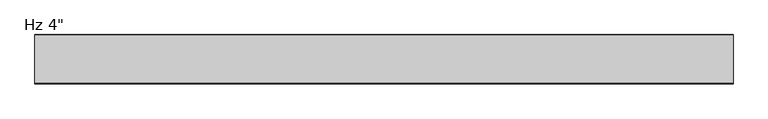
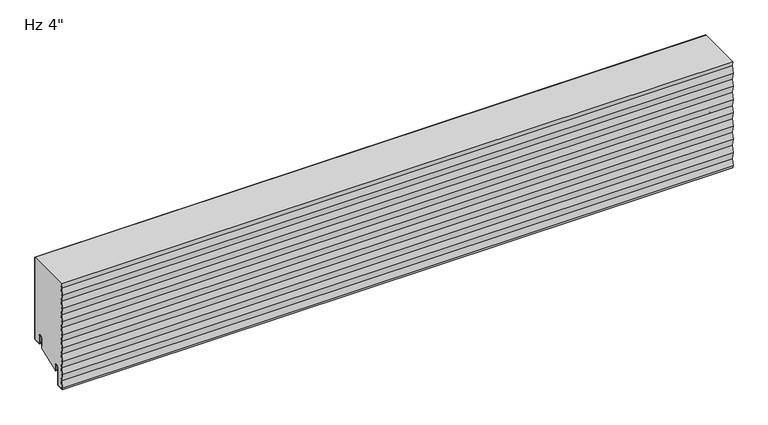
"""IFC4 building model written with IfcOpenShell, lengths in millimetres: plate geometry."""

from ifc_helpers import new_model, si_unit, point, frame, frame_2d, origin, place, context, project, spatial, polyline, circle_curve, trimmed, segment, composite_curve, outline, extrude, source, transform, mapped, element, save


def plate_0a50ad54(model_context):
    return source(origin(), model_context, "Body", "SweptSolid", [
        extrude(outline(composite_curve([segment(trimmed(circle_curve(frame_2d((-21.43125, 19.05)), 4.96875), [point((-16.4625, 19.05))], [point((-26.4, 19.05))], True, "CARTESIAN"), True, "CONTINUOUS"), segment(polyline([(-26.4, 19.05), (-26.4, -3.1323422), (-74.6157227, -23.01875), (-76.2, -23.01875), (-76.2, -13.5080174), (-76.99375, -13.5080174), (-76.7875, -11.9205174)]), True, "CONTINUOUS"), segment(trimmed(circle_curve(frame_2d((-81.75625, -11.9205174)), 4.96875), [point((-76.7875, -11.9205174))], [point((-86.725, -11.9205174))], True, "CARTESIAN"), True, "CONTINUOUS"), segment(polyline([(-86.725, -11.9205174), (-86.725, -50.1038221)]), True, "CONTINUOUS"), segment(trimmed(circle_curve(frame_2d((-88.10625, -50.1038221)), 1.38125), [point((-86.725, -50.1038221))], [point((-88.033961, -51.4831791))], False, "CARTESIAN"), True, "CONTINUOUS"), segment(polyline([(-88.033961, -51.4831791), (-101.2062471, -52.1735094), (-101.7378194, -48.8511825), (-99.2994194, -33.6111825), (-101.7378194, -18.3711825), (-99.2994194, -3.1311825), (-101.7378194, 12.1088175), (-99.2994194, 27.3488175), (-101.7378194, 42.5888175), (-99.2994194, 57.8288175), (-101.7378194, 73.0688175), (-99.2994194, 88.3088175), (-101.7378194, 103.5488175), (-99.2994194, 118.7888175), (-101.7378194, 134.0288175), (-99.2994194, 149.2688175), (-101.7378194, 164.5088175), (-99.2994194, 179.7488175), (-100.9716086, 190.2), (-1.0, 190.2), (-1.0, 3.175)]), True, "CONTINUOUS"), segment(trimmed(circle_curve(frame_2d((-2.38125, 3.175)), 1.38125), [point((-1.0, 3.175))], [point((-2.38125, 1.79375))], False, "CARTESIAN"), True, "CONTINUOUS"), segment(polyline([(-2.38125, 1.79375), (-15.08125, 1.79375)]), True, "CONTINUOUS"), segment(trimmed(circle_curve(frame_2d((-15.08125, 3.175)), 1.38125), [point((-15.08125, 1.79375))], [point((-16.4625, 3.175))], False, "CARTESIAN"), True, "CONTINUOUS"), segment(polyline([(-16.4625, 3.175), (-16.4625, 19.05)]), True, "CONTINUOUS")], self_intersect=False)), frame((-730.0, 0.0, 0.0), z_axis=(1.0, 0.0, 0.0), x_axis=(0.0, 1.0, 0.0)), (0.0, 0.0, 1.0), 1460.0),
        extrude(outline(composite_curve([segment(polyline([(-25.4, 0.79375), (-26.4, 0.79375), (-26.4, 19.05)]), True, "CONTINUOUS"), segment(trimmed(circle_curve(frame_2d((-21.43125, 19.05)), 4.96875), [point((-26.4, 19.05))], [point((-16.4625, 19.05))], False, "CARTESIAN"), True, "CONTINUOUS"), segment(polyline([(-16.4625, 19.05), (-16.4625, 3.175)]), True, "CONTINUOUS"), segment(trimmed(circle_curve(frame_2d((-15.08125, 3.175)), 1.38125), [point((-16.4625, 3.175))], [point((-15.08125, 1.79375))], True, "CARTESIAN"), True, "CONTINUOUS"), segment(polyline([(-15.08125, 1.79375), (-2.38125, 1.79375)]), True, "CONTINUOUS"), segment(trimmed(circle_curve(frame_2d((-2.38125, 3.175)), 1.38125), [point((-2.38125, 1.79375))], [point((-1.0, 3.175))], True, "CARTESIAN"), True, "CONTINUOUS"), segment(polyline([(-1.0, 3.175), (-1.0, 190.2), (0.0, 190.2), (0.0, 3.175)]), True, "CONTINUOUS"), segment(trimmed(circle_curve(frame_2d((-2.38125, 3.175)), 2.38125), [point((0.0, 3.175))], [point((-2.38125, 0.79375))], False, "CARTESIAN"), True, "CONTINUOUS"), segment(polyline([(-2.38125, 0.79375), (-15.08125, 0.79375)]), True, "CONTINUOUS"), segment(trimmed(circle_curve(frame_2d((-15.08125, 3.175)), 2.38125), [point((-15.08125, 0.79375))], [point((-17.4625, 3.175))], False, "CARTESIAN"), True, "CONTINUOUS"), segment(polyline([(-17.4625, 3.175), (-17.4625, 19.05)]), True, "CONTINUOUS"), segment(trimmed(circle_curve(frame_2d((-21.43125, 19.05)), 3.96875), [point((-17.4625, 19.05))], [point((-25.4, 19.05))], True, "CARTESIAN"), True, "CONTINUOUS"), segment(polyline([(-25.4, 19.05), (-25.4, 0.79375)]), True, "CONTINUOUS")], self_intersect=False)), frame((-730.0, 0.0, 0.0), z_axis=(1.0, 0.0, 0.0), x_axis=(0.0, 1.0, 0.0)), (0.0, 0.0, 1.0), 1460.0),
        extrude(outline(composite_curve([segment(trimmed(circle_curve(frame_2d((-76.99375, -23.2314549)), 0.79375), [point((-76.2, -23.2314549))], [point((-77.7875, -23.2314549))], False, "CARTESIAN"), True, "CONTINUOUS"), segment(polyline([(-77.7875, -23.2314549), (-77.7875, -11.9205174)]), True, "CONTINUOUS"), segment(trimmed(circle_curve(frame_2d((-81.75625, -11.9205174)), 3.96875), [point((-77.7875, -11.9205174))], [point((-85.725, -11.9205174))], True, "CARTESIAN"), True, "CONTINUOUS"), segment(polyline([(-85.725, -11.9205174), (-85.725, -50.1038221)]), True, "CONTINUOUS"), segment(trimmed(circle_curve(frame_2d((-88.10625, -50.1038221)), 2.38125), [point((-85.725, -50.1038221))], [point((-87.981625, -52.4818086))], False, "CARTESIAN"), True, "CONTINUOUS"), segment(polyline([(-87.981625, -52.4818086), (-102.1543553, -53.22457), (-102.8509395, -48.8709186), (-100.4125395, -33.6309186), (-102.8509395, -18.3909186), (-100.4125395, -3.1509186), (-102.8509395, 12.0890814), (-100.4125395, 27.3290814), (-102.8509395, 42.5690814), (-100.4125395, 57.8090814), (-102.8509395, 73.0490814), (-100.4125395, 88.2890814), (-102.8509395, 103.5290814), (-100.4125395, 118.7690814), (-102.8509395, 134.0090814), (-100.4125395, 149.2490814), (-102.8509395, 164.4890814), (-100.4125395, 179.7290814), (-102.0878865, 190.2), (-101.0751674, 190.2), (-99.3998204, 179.7290814), (-101.8382204, 164.4890814), (-99.3998204, 149.2490814), (-101.8382204, 134.0090814), (-99.3998204, 118.7690814), (-101.8382204, 103.5290814), (-99.3998204, 88.2890814), (-101.8382204, 73.0490814), (-99.3998204, 57.8090814), (-101.8382204, 42.5690814), (-99.3998204, 27.3290814), (-101.8382204, 12.0890814), (-99.3998204, -3.1509186), (-101.8382204, -18.3909186), (-99.3998204, -33.6309186), (-101.8382204, -48.8709186), (-101.3089447, -52.1788915), (-88.033961, -51.4831791)]), True, "CONTINUOUS"), segment(trimmed(circle_curve(frame_2d((-88.10625, -50.1038221)), 1.38125), [point((-88.033961, -51.4831791))], [point((-86.725, -50.1038221))], True, "CARTESIAN"), True, "CONTINUOUS"), segment(polyline([(-86.725, -50.1038221), (-86.725, -11.9205174)]), True, "CONTINUOUS"), segment(trimmed(circle_curve(frame_2d((-81.75625, -11.9205174)), 4.96875), [point((-86.725, -11.9205174))], [point((-76.7875, -11.9205174))], False, "CARTESIAN"), True, "CONTINUOUS"), segment(polyline([(-76.7875, -11.9205174), (-76.99375, -13.5080174), (-76.2, -13.5080174), (-76.2, -23.2314549)]), True, "CONTINUOUS")], self_intersect=False)), frame((-730.0, 0.0, 0.0), z_axis=(1.0, 0.0, 0.0), x_axis=(0.0, 1.0, 0.0)), (0.0, 0.0, 1.0), 1460.0),
    ])


if __name__ == "__main__":
    model = new_model("IFC4")
    model_context = context("Model", 3, world=origin())
    ifc_project = project(units=[si_unit("LENGTHUNIT", "METRE", prefix="MILLI")], contexts=[model_context])
    site = spatial("IfcSite", under=ifc_project)
    building = spatial("IfcBuilding", under=site)
    placement = place(None, origin())
    plate_shape = plate_0a50ad54(model_context)
    element("IfcPlate", 1, ObjectType="KIP-30-DWHR-R19-CP-Hz-S : Hz 4\"", at=placement, inside=building, context=model_context, shape_type="MappedRepresentation", body=[
        mapped(plate_shape, transform((0.0, 0.0, 0.0), x_axis=(1.0, 0.0, 0.0), y_axis=(0.0, 1.0, 0.0), z_axis=(0.0, 0.0, 1.0))),
    ])
    save(model, "model.ifc")
